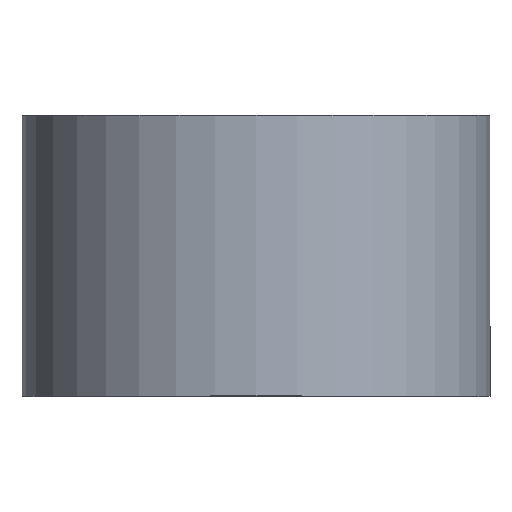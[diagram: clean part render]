
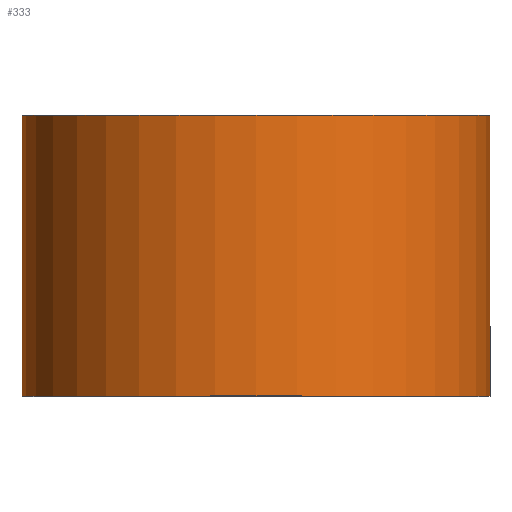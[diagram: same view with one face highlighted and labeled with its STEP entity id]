
A CAD part, top view. The second image highlights one B-rep face of the part: STEP entity #333.
In plain terms, the highlighted cylindrical face has radius 25 mm (diameter 50 mm), a partial arc.
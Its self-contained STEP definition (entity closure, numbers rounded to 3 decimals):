
#30 = CIRCLE ( 'NONE', #684, 25. ) ;
#36 = CYLINDRICAL_SURFACE ( 'NONE', #812, 25. ) ;
#55 = CARTESIAN_POINT ( 'NONE',  ( -25., -15., 0. ) ) ;
#97 = DIRECTION ( 'NONE',  ( -1., 0., 0. ) ) ;
#117 = DIRECTION ( 'NONE',  ( 0., 1., 0. ) ) ;
#122 = VERTEX_POINT ( 'NONE', #55 ) ;
#155 = AXIS2_PLACEMENT_3D ( 'NONE', #625, #921, #554 ) ;
#158 = EDGE_CURVE ( 'NONE', #122, #171, #710, .T. ) ;
#166 = EDGE_LOOP ( 'NONE', ( #902, #466, #586, #912 ) ) ;
#171 = VERTEX_POINT ( 'NONE', #291 ) ;
#218 = DIRECTION ( 'NONE',  ( 0., 1., 0. ) ) ;
#291 = CARTESIAN_POINT ( 'NONE',  ( -25., 15., 0. ) ) ;
#305 = CARTESIAN_POINT ( 'NONE',  ( 25., 15., 0. ) ) ;
#333 = ADVANCED_FACE ( 'NONE', ( #772 ), #36, .T. ) ;
#340 = DIRECTION ( 'NONE',  ( 0., 1., 0. ) ) ;
#344 = EDGE_CURVE ( 'NONE', #122, #782, #30, .T. ) ;
#422 = EDGE_CURVE ( 'NONE', #171, #660, #501, .T. ) ;
#444 = VECTOR ( 'NONE', #218, 1000. ) ;
#466 = ORIENTED_EDGE ( 'NONE', *, *, #947, .T. ) ;
#501 = CIRCLE ( 'NONE', #155, 25. ) ;
#554 = DIRECTION ( 'NONE',  ( -1., 0., 0. ) ) ;
#586 = ORIENTED_EDGE ( 'NONE', *, *, #422, .F. ) ;
#623 = DIRECTION ( 'NONE',  ( 0., 1., 0. ) ) ;
#625 = CARTESIAN_POINT ( 'NONE',  ( 0., 15., 0. ) ) ;
#631 = DIRECTION ( 'NONE',  ( -1., 0., 0. ) ) ;
#644 = CARTESIAN_POINT ( 'NONE',  ( -25., 0., 0. ) ) ;
#660 = VERTEX_POINT ( 'NONE', #305 ) ;
#678 = CARTESIAN_POINT ( 'NONE',  ( 0., 0., 0. ) ) ;
#684 = AXIS2_PLACEMENT_3D ( 'NONE', #756, #117, #97 ) ;
#687 = CARTESIAN_POINT ( 'NONE',  ( 25., 0., 0. ) ) ;
#710 = LINE ( 'NONE', #644, #444 ) ;
#739 = CARTESIAN_POINT ( 'NONE',  ( 25., -15., 0. ) ) ;
#756 = CARTESIAN_POINT ( 'NONE',  ( 0., -15., 0. ) ) ;
#772 = FACE_OUTER_BOUND ( 'NONE', #166, .T. ) ;
#782 = VERTEX_POINT ( 'NONE', #739 ) ;
#812 = AXIS2_PLACEMENT_3D ( 'NONE', #678, #340, #631 ) ;
#846 = LINE ( 'NONE', #687, #874 ) ;
#874 = VECTOR ( 'NONE', #623, 1000. ) ;
#902 = ORIENTED_EDGE ( 'NONE', *, *, #344, .T. ) ;
#912 = ORIENTED_EDGE ( 'NONE', *, *, #158, .F. ) ;
#921 = DIRECTION ( 'NONE',  ( 0., 1., 0. ) ) ;
#947 = EDGE_CURVE ( 'NONE', #782, #660, #846, .T. ) ;
